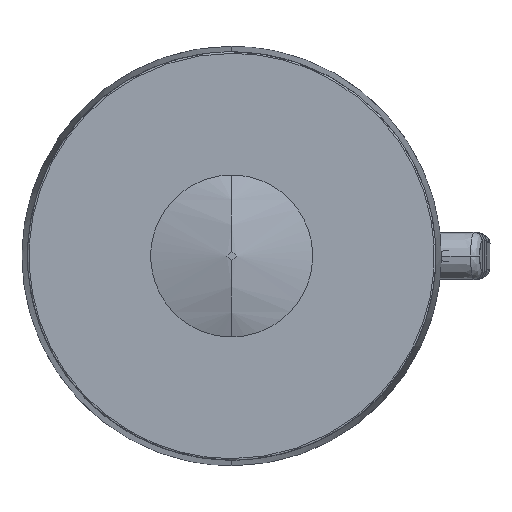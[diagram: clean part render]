
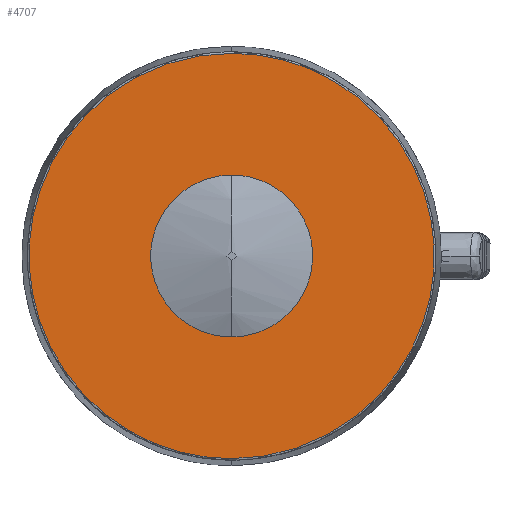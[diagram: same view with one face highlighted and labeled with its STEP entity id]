
A CAD part, front view. The second image highlights one B-rep face of the part: STEP entity #4707.
In plain terms, the highlighted planar face has unit normal (0, -1, 0).
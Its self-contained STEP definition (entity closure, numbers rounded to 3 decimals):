
#410=FACE_BOUND('',#8315,.T.);
#4707=ADVANCED_FACE('',(#6415,#410),#26407,.T.);
#6415=FACE_OUTER_BOUND('',#8314,.T.);
#8314=EDGE_LOOP('',(#16522,#16523));
#8315=EDGE_LOOP('',(#16524,#16525));
#16522=ORIENTED_EDGE('',*,*,#21142,.T.);
#16523=ORIENTED_EDGE('',*,*,#21141,.T.);
#16524=ORIENTED_EDGE('',*,*,#21137,.F.);
#16525=ORIENTED_EDGE('',*,*,#21138,.F.);
#21137=EDGE_CURVE('',#25926,#25927,#23087,.T.);
#21138=EDGE_CURVE('',#25927,#25926,#23088,.T.);
#21141=EDGE_CURVE('',#25929,#25928,#23091,.T.);
#21142=EDGE_CURVE('',#25928,#25929,#23092,.T.);
#23087=(
BOUNDED_CURVE()
B_SPLINE_CURVE(2,(#96638,#96639,#96640,#96641,#96642),.UNSPECIFIED.,.F.,
 .F.)
B_SPLINE_CURVE_WITH_KNOTS((3,2,3),(0.,40.038,80.076),
 .UNSPECIFIED.)
CURVE()
GEOMETRIC_REPRESENTATION_ITEM()
RATIONAL_B_SPLINE_CURVE((1.,0.707,1.,0.707,1.))
REPRESENTATION_ITEM('')
);
#23088=(
BOUNDED_CURVE()
B_SPLINE_CURVE(2,(#96643,#96644,#96645,#96646,#96647),.UNSPECIFIED.,.F.,
 .F.)
B_SPLINE_CURVE_WITH_KNOTS((3,2,3),(80.076,120.114,160.152),
 .UNSPECIFIED.)
CURVE()
GEOMETRIC_REPRESENTATION_ITEM()
RATIONAL_B_SPLINE_CURVE((1.,0.707,1.,0.707,1.))
REPRESENTATION_ITEM('')
);
#23091=(
BOUNDED_CURVE()
B_SPLINE_CURVE(2,(#96654,#96655,#96656,#96657,#96658),.UNSPECIFIED.,.F.,
 .F.)
B_SPLINE_CURVE_WITH_KNOTS((3,2,3),(200.387,300.581,400.774),
 .UNSPECIFIED.)
CURVE()
GEOMETRIC_REPRESENTATION_ITEM()
RATIONAL_B_SPLINE_CURVE((1.,0.707,1.,0.707,1.))
REPRESENTATION_ITEM('')
);
#23092=(
BOUNDED_CURVE()
B_SPLINE_CURVE(2,(#96659,#96660,#96661,#96662,#96663),.UNSPECIFIED.,.F.,
 .F.)
B_SPLINE_CURVE_WITH_KNOTS((3,2,3),(0.,100.194,200.387),
 .UNSPECIFIED.)
CURVE()
GEOMETRIC_REPRESENTATION_ITEM()
RATIONAL_B_SPLINE_CURVE((1.,0.707,1.,0.707,1.))
REPRESENTATION_ITEM('')
);
#25926=VERTEX_POINT('',#96496);
#25927=VERTEX_POINT('',#96497);
#25928=VERTEX_POINT('',#96498);
#25929=VERTEX_POINT('',#96499);
#26407=PLANE('',#28158);
#28158=AXIS2_PLACEMENT_3D('',#96126,#28597,$);
#28597=DIRECTION('',(0.,-1.,0.));
#96126=CARTESIAN_POINT('',(-77.152,-212.637,77.152));
#96496=CARTESIAN_POINT('',(0.,-212.637,-25.489));
#96497=CARTESIAN_POINT('',(0.,-212.637,25.489));
#96498=CARTESIAN_POINT('',(0.,-212.637,-63.785));
#96499=CARTESIAN_POINT('',(0.,-212.637,63.785));
#96638=CARTESIAN_POINT('',(0.,-212.637,-25.489));
#96639=CARTESIAN_POINT('',(25.489,-212.637,-25.489));
#96640=CARTESIAN_POINT('',(25.489,-212.637,0.));
#96641=CARTESIAN_POINT('',(25.489,-212.637,25.489));
#96642=CARTESIAN_POINT('',(0.,-212.637,25.489));
#96643=CARTESIAN_POINT('',(0.,-212.637,25.489));
#96644=CARTESIAN_POINT('',(-25.489,-212.637,25.489));
#96645=CARTESIAN_POINT('',(-25.489,-212.637,0.));
#96646=CARTESIAN_POINT('',(-25.489,-212.637,-25.489));
#96647=CARTESIAN_POINT('',(0.,-212.637,-25.489));
#96654=CARTESIAN_POINT('',(0.,-212.637,63.785));
#96655=CARTESIAN_POINT('',(-63.785,-212.637,63.785));
#96656=CARTESIAN_POINT('',(-63.785,-212.637,0.));
#96657=CARTESIAN_POINT('',(-63.785,-212.637,-63.785));
#96658=CARTESIAN_POINT('',(0.,-212.637,-63.785));
#96659=CARTESIAN_POINT('',(0.,-212.637,-63.785));
#96660=CARTESIAN_POINT('',(63.785,-212.637,-63.785));
#96661=CARTESIAN_POINT('',(63.785,-212.637,0.));
#96662=CARTESIAN_POINT('',(63.785,-212.637,63.785));
#96663=CARTESIAN_POINT('',(0.,-212.637,63.785));
